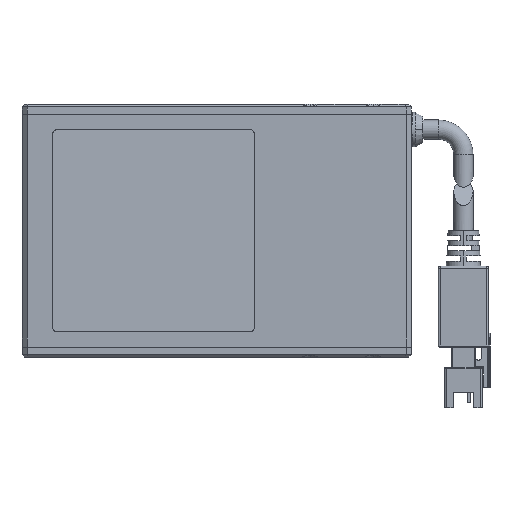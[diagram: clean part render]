
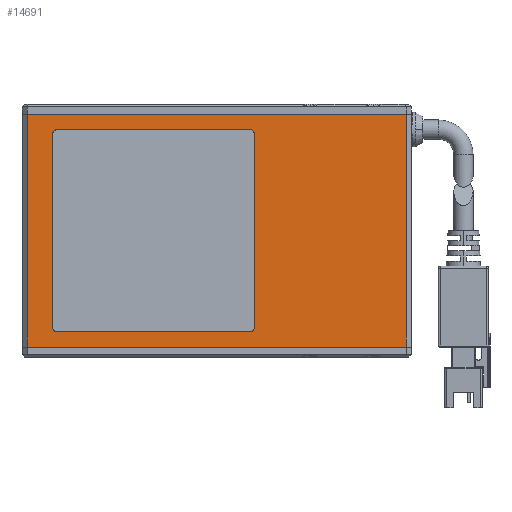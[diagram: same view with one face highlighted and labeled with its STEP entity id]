
A CAD part, left-side view. The second image highlights one B-rep face of the part: STEP entity #14691.
In plain terms, the highlighted planar face has unit normal (-1, 0, 0).
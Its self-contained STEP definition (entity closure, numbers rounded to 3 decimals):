
#30 = LINE ( 'NONE', #12521, #16374 ) ;
#334 = EDGE_CURVE ( 'NONE', #701, #5827, #15977, .T. ) ;
#445 = CARTESIAN_POINT ( 'NONE',  ( -25., 32.5, 19. ) ) ;
#519 = CARTESIAN_POINT ( 'NONE',  ( -25., -6.5, 19. ) ) ;
#701 = VERTEX_POINT ( 'NONE', #4049 ) ;
#754 = CIRCLE ( 'NONE', #14788, 1. ) ;
#930 = CARTESIAN_POINT ( 'NONE',  ( -25., 31.5, 20. ) ) ;
#1069 = DIRECTION ( 'NONE',  ( 0., 0., -1. ) ) ;
#1351 = VERTEX_POINT ( 'NONE', #4947 ) ;
#1892 = ORIENTED_EDGE ( 'NONE', *, *, #10695, .T. ) ;
#1984 = DIRECTION ( 'NONE',  ( 0., 1., 0. ) ) ;
#2254 = VECTOR ( 'NONE', #11690, 1000. ) ;
#2545 = ORIENTED_EDGE ( 'NONE', *, *, #13449, .F. ) ;
#2660 = DIRECTION ( 'NONE',  ( 1., 0., 0. ) ) ;
#2688 = ORIENTED_EDGE ( 'NONE', *, *, #7498, .F. ) ;
#3010 = AXIS2_PLACEMENT_3D ( 'NONE', #16124, #7444, #17570 ) ;
#3213 = AXIS2_PLACEMENT_3D ( 'NONE', #4808, #6253, #14983 ) ;
#3550 = EDGE_LOOP ( 'NONE', ( #13557, #12899, #12972, #7212 ) ) ;
#3871 = DIRECTION ( 'NONE',  ( 1., 0., 0. ) ) ;
#3947 = FACE_OUTER_BOUND ( 'NONE', #3550, .T. ) ;
#4049 = CARTESIAN_POINT ( 'NONE',  ( -25., 31.5, -20. ) ) ;
#4097 = DIRECTION ( 'NONE',  ( 0., 0., -1. ) ) ;
#4164 = VERTEX_POINT ( 'NONE', #14715 ) ;
#4285 = EDGE_CURVE ( 'NONE', #9052, #16286, #14700, .T. ) ;
#4808 = CARTESIAN_POINT ( 'NONE',  ( -25., 31.5, -19. ) ) ;
#4947 = CARTESIAN_POINT ( 'NONE',  ( -25., -37.5, -23. ) ) ;
#5111 = DIRECTION ( 'NONE',  ( 0., -1., 0. ) ) ;
#5465 = ORIENTED_EDGE ( 'NONE', *, *, #9152, .T. ) ;
#5502 = EDGE_CURVE ( 'NONE', #9637, #16274, #14043, .T. ) ;
#5510 = CARTESIAN_POINT ( 'NONE',  ( -25., 37.5, 23. ) ) ;
#5827 = VERTEX_POINT ( 'NONE', #6502 ) ;
#6253 = DIRECTION ( 'NONE',  ( 1., 0., 0. ) ) ;
#6502 = CARTESIAN_POINT ( 'NONE',  ( -25., 32.5, -19. ) ) ;
#6752 = PLANE ( 'NONE',  #7982 ) ;
#6863 = EDGE_CURVE ( 'NONE', #4164, #18489, #13648, .T. ) ;
#7018 = ORIENTED_EDGE ( 'NONE', *, *, #6863, .F. ) ;
#7096 = EDGE_CURVE ( 'NONE', #16274, #1351, #10008, .T. ) ;
#7152 = CARTESIAN_POINT ( 'NONE',  ( -25., 37.5, -23. ) ) ;
#7173 = EDGE_LOOP ( 'NONE', ( #2545, #11529, #11564, #1892, #7018, #5465, #2688, #15624 ) ) ;
#7212 = ORIENTED_EDGE ( 'NONE', *, *, #5502, .T. ) ;
#7444 = DIRECTION ( 'NONE',  ( 1., 0., 0. ) ) ;
#7498 = EDGE_CURVE ( 'NONE', #701, #14513, #9992, .T. ) ;
#7787 = CARTESIAN_POINT ( 'NONE',  ( -25., -6.5, -20. ) ) ;
#7982 = AXIS2_PLACEMENT_3D ( 'NONE', #14020, #3871, #8222 ) ;
#8166 = CARTESIAN_POINT ( 'NONE',  ( -25., 37.5, -23. ) ) ;
#8215 = DIRECTION ( 'NONE',  ( 0., -1., 0. ) ) ;
#8222 = DIRECTION ( 'NONE',  ( 0., 1., 0. ) ) ;
#8978 = VECTOR ( 'NONE', #12844, 1000. ) ;
#9052 = VERTEX_POINT ( 'NONE', #18040 ) ;
#9152 = EDGE_CURVE ( 'NONE', #4164, #14513, #15605, .T. ) ;
#9453 = LINE ( 'NONE', #17157, #8978 ) ;
#9626 = FACE_BOUND ( 'NONE', #7173, .T. ) ;
#9637 = VERTEX_POINT ( 'NONE', #15523 ) ;
#9743 = DIRECTION ( 'NONE',  ( 0., 0., 1. ) ) ;
#9790 = AXIS2_PLACEMENT_3D ( 'NONE', #11344, #2660, #12798 ) ;
#9798 = VECTOR ( 'NONE', #9743, 1000. ) ;
#9992 = LINE ( 'NONE', #17043, #2254 ) ;
#10008 = LINE ( 'NONE', #7152, #13395 ) ;
#10541 = CIRCLE ( 'NONE', #3010, 1. ) ;
#10667 = DIRECTION ( 'NONE',  ( 1., 0., 0. ) ) ;
#10695 = EDGE_CURVE ( 'NONE', #9052, #18489, #754, .T. ) ;
#11344 = CARTESIAN_POINT ( 'NONE',  ( -25., -6.5, -19. ) ) ;
#11529 = ORIENTED_EDGE ( 'NONE', *, *, #13622, .T. ) ;
#11564 = ORIENTED_EDGE ( 'NONE', *, *, #4285, .F. ) ;
#11690 = DIRECTION ( 'NONE',  ( 0., -1., 0. ) ) ;
#11711 = VERTEX_POINT ( 'NONE', #12258 ) ;
#11822 = EDGE_CURVE ( 'NONE', #9637, #11711, #30, .T. ) ;
#12151 = VERTEX_POINT ( 'NONE', #445 ) ;
#12188 = VECTOR ( 'NONE', #18115, 1000. ) ;
#12258 = CARTESIAN_POINT ( 'NONE',  ( -25., -37.5, 23. ) ) ;
#12521 = CARTESIAN_POINT ( 'NONE',  ( -25., 37.5, 23. ) ) ;
#12798 = DIRECTION ( 'NONE',  ( 0., 1., 0. ) ) ;
#12844 = DIRECTION ( 'NONE',  ( 0., 0., -1. ) ) ;
#12899 = ORIENTED_EDGE ( 'NONE', *, *, #13426, .F. ) ;
#12972 = ORIENTED_EDGE ( 'NONE', *, *, #11822, .F. ) ;
#13285 = VECTOR ( 'NONE', #4097, 1000. ) ;
#13395 = VECTOR ( 'NONE', #5111, 1000. ) ;
#13426 = EDGE_CURVE ( 'NONE', #11711, #1351, #17149, .T. ) ;
#13449 = EDGE_CURVE ( 'NONE', #12151, #5827, #9453, .T. ) ;
#13475 = CARTESIAN_POINT ( 'NONE',  ( -25., -7.5, 19. ) ) ;
#13557 = ORIENTED_EDGE ( 'NONE', *, *, #7096, .T. ) ;
#13622 = EDGE_CURVE ( 'NONE', #12151, #16286, #10541, .T. ) ;
#13648 = LINE ( 'NONE', #15513, #9798 ) ;
#14020 = CARTESIAN_POINT ( 'NONE',  ( -25., 37.5, 23. ) ) ;
#14043 = LINE ( 'NONE', #5510, #17679 ) ;
#14513 = VERTEX_POINT ( 'NONE', #7787 ) ;
#14691 = ADVANCED_FACE ( 'NONE', ( #9626, #3947 ), #6752, .F. ) ;
#14700 = LINE ( 'NONE', #16655, #12188 ) ;
#14715 = CARTESIAN_POINT ( 'NONE',  ( -25., -7.5, -19. ) ) ;
#14788 = AXIS2_PLACEMENT_3D ( 'NONE', #519, #10667, #1984 ) ;
#14983 = DIRECTION ( 'NONE',  ( 0., 1., 0. ) ) ;
#15513 = CARTESIAN_POINT ( 'NONE',  ( -25., -7.5, -20. ) ) ;
#15523 = CARTESIAN_POINT ( 'NONE',  ( -25., 37.5, 23. ) ) ;
#15605 = CIRCLE ( 'NONE', #9790, 1. ) ;
#15624 = ORIENTED_EDGE ( 'NONE', *, *, #334, .T. ) ;
#15977 = CIRCLE ( 'NONE', #3213, 1. ) ;
#16124 = CARTESIAN_POINT ( 'NONE',  ( -25., 31.5, 19. ) ) ;
#16274 = VERTEX_POINT ( 'NONE', #8166 ) ;
#16286 = VERTEX_POINT ( 'NONE', #930 ) ;
#16374 = VECTOR ( 'NONE', #8215, 1000. ) ;
#16655 = CARTESIAN_POINT ( 'NONE',  ( -25., 32.5, 20. ) ) ;
#17043 = CARTESIAN_POINT ( 'NONE',  ( -25., 32.5, -20. ) ) ;
#17149 = LINE ( 'NONE', #18536, #13285 ) ;
#17157 = CARTESIAN_POINT ( 'NONE',  ( -25., 32.5, -20. ) ) ;
#17570 = DIRECTION ( 'NONE',  ( 0., 1., 0. ) ) ;
#17679 = VECTOR ( 'NONE', #1069, 1000. ) ;
#18040 = CARTESIAN_POINT ( 'NONE',  ( -25., -6.5, 20. ) ) ;
#18115 = DIRECTION ( 'NONE',  ( 0., 1., 0. ) ) ;
#18489 = VERTEX_POINT ( 'NONE', #13475 ) ;
#18536 = CARTESIAN_POINT ( 'NONE',  ( -25., -37.5, 23. ) ) ;
